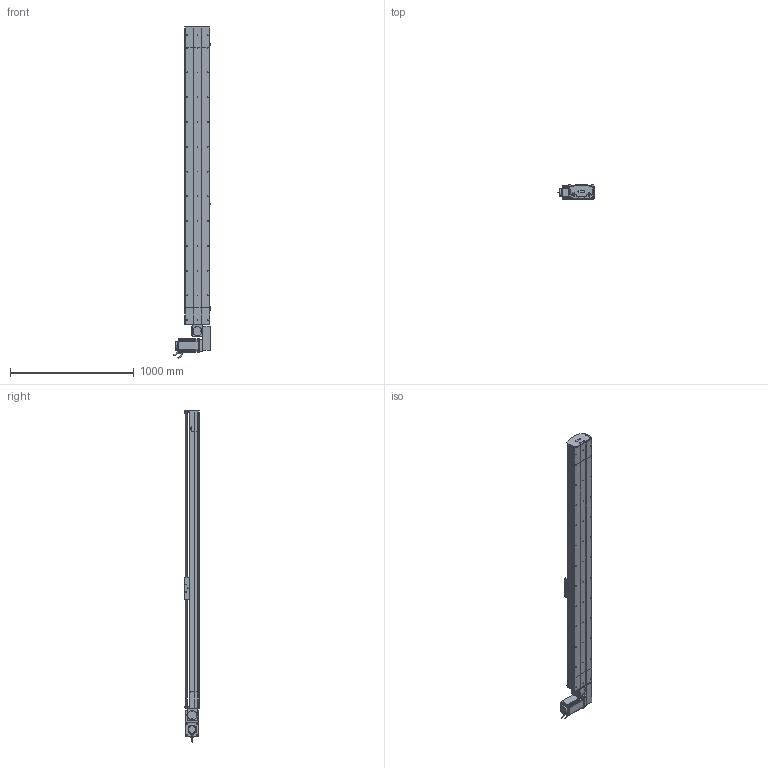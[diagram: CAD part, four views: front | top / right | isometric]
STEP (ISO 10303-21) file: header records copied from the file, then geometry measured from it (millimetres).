
FILE_DESCRIPTION (( 'STEP AP214' ), '1' );
FILE_NAME ('D20 TBH LH S2100.STEP', '2010-07-01T07:55:59', ( 'Conseil Régional Haute-Normandie' ), ( 'Conseil Régional Haute-Normandie' ), 'SwSTEP 2.0', 'SolidWorks 2010', '' );
FILE_SCHEMA (( 'AUTOMOTIVE_DESIGN' ));
Length unit declared in the file: millimetre
Products named in the file (40): tete d''axe poulie D20B; couvercle tail D20_Default; Couroie tail D20_Default; tail D20+100_Default; poulie tail D20_Default; corpl tail D20 +100_Default; plaque de  bout tail D20_Default; vis M5 L8 90°_Default; vis M5 L25_Default; vis M5 L12_Default; rail tail D20; rail + couroie  D20 S2100; couvercle D20 S2100_Default; corp D20 S2100_Default; Course B L2100_Default; guide D20B; Chariot D20B; chariot D20B_Default; D20 TBH LH S2100; vis M8 L12_Default; couroie_Default; cache D20_Default; cache arbre D20_Default; plaque de  bout head D20B LH_Default; poulie head D20_Default; clavette; Conecteur_Default; Conecteur2_Default; codeur 110BLDC170A-630x; corps 110BLDC170A-630x; avant 110BLDC170A-630x; Moteur motionking 110BLDC170A-640x; vis M5 L70_Default; Plaque racord D20LH_Default; Renvoi LH D20_Default; vis M5 L5_Default; couvercle head D20_Default; rail head D20; head LH_Default; corpl head D20_Default
Assembly tree (71 placements, depth 4):
  D20 TBH LH S2100
    chariot D20B_Default
      vis M5 L12_Default  x4
      Chariot D20B
      guide D20B  x2
    head LH_Default
      rail head D20
      vis M5 L12_Default  x10
      Plaque racord D20LH_Default
      vis M5 L5_Default  x4
      corpl head D20_Default
      vis M5 L25_Default  x2
      cache arbre D20_Default
      cache D20_Default  x2
      vis M8 L12_Default  x4
      Moteur motionking 110BLDC170A-640x
        corps 110BLDC170A-630x
        Conecteur2_Default
        codeur 110BLDC170A-630x
        Conecteur_Default
        clavette
        avant 110BLDC170A-630x
      poulie head D20_Default
      couroie_Default
      vis M5 L70_Default  x4
      plaque de  bout head D20B LH_Default
      couvercle head D20_Default
      Renvoi LH D20_Default
    Course B L2100_Default
      couvercle D20 S2100_Default
      corp D20 S2100_Default
      rail + couroie  D20 S2100
    tail D20+100_Default
      plaque de  bout tail D20_Default
      vis M5 L25_Default  x2
      vis M5 L12_Default  x4
      rail tail D20
      vis M5 L8 90°_Default  x2
      tete d''axe poulie D20B
      couvercle tail D20_Default
      Couroie tail D20_Default
      corpl tail D20 +100_Default
      poulie tail D20_Default
Bounding box: 304.2 x 115.7 x 2680 mm (x, y, z)
Volume: 20962335.9 mm3; surface area: 5067559.3 mm2
Topology: 95 solids, 95 shells, 2796 faces, 7110 edges, 4591 vertices
Faces by surface type: plane 1635, cylinder 837, bspline 136, cone 99, torus 89
Entity records: 89047 total; most frequent: CARTESIAN_POINT 28673, ORIENTED_EDGE 10876, DIRECTION 10249, EDGE_CURVE 5438, VERTEX_POINT 3577, VECTOR 3507, LINE 3507, AXIS2_PLACEMENT_3D 3371
